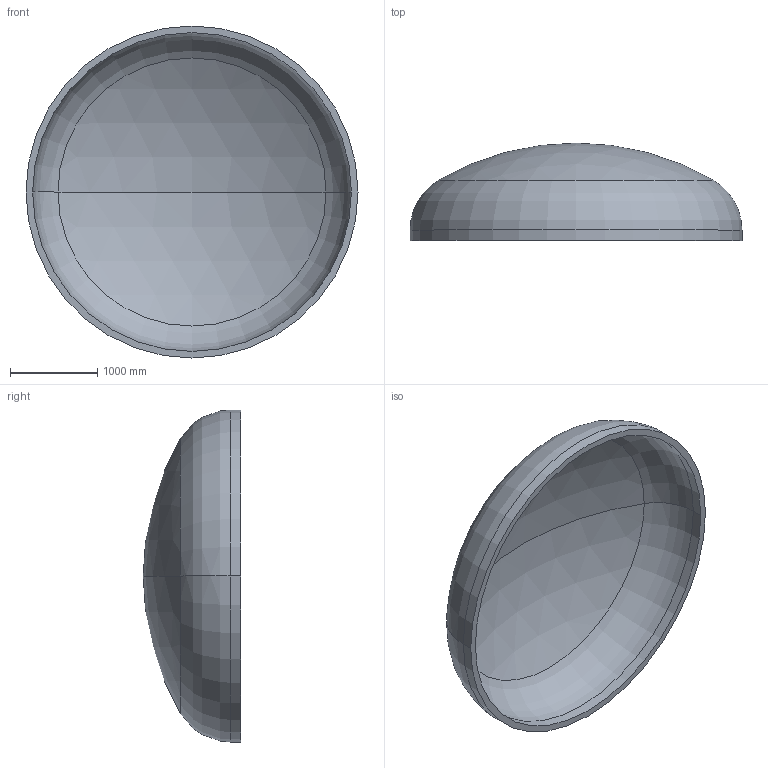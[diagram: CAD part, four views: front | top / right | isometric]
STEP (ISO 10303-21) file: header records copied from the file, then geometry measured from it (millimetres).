
FILE_DESCRIPTION (( 'STEP AP203' ), '1' );
FILE_NAME ('DIN 28013 Korbbogenform_-_Boden DIN 28013 - 3800 x 120 - I - s=76.step', '2016-07-01T21:39:11', ( '' ), ( '' ), 'SwSTEP 2.0', 'SolidWorks 2013', '' );
FILE_SCHEMA (( 'CONFIG_CONTROL_DESIGN' ));
Length unit declared in the file: millimetre
Products named in the file (1): DIN 28013 Korbbogenform_-_Boden DIN 28013 - 3800 x 120 - I - s=76
Bounding box: 3800 x 1116.59 x 3800 mm (x, y, z)
Volume: 1269354011.9 mm3; surface area: 34305284.6 mm2
Topology: 1 solids, 1 shells, 13 faces, 24 edges, 14 vertices
Faces by surface type: torus 4, cylinder 4, sphere 4, plane 1
Entity records: 407 total; most frequent: DIRECTION 72, CARTESIAN_POINT 52, ORIENTED_EDGE 48, AXIS2_PLACEMENT_3D 34, EDGE_CURVE 24, CIRCLE 20, VERTEX_POINT 14, EDGE_LOOP 14
